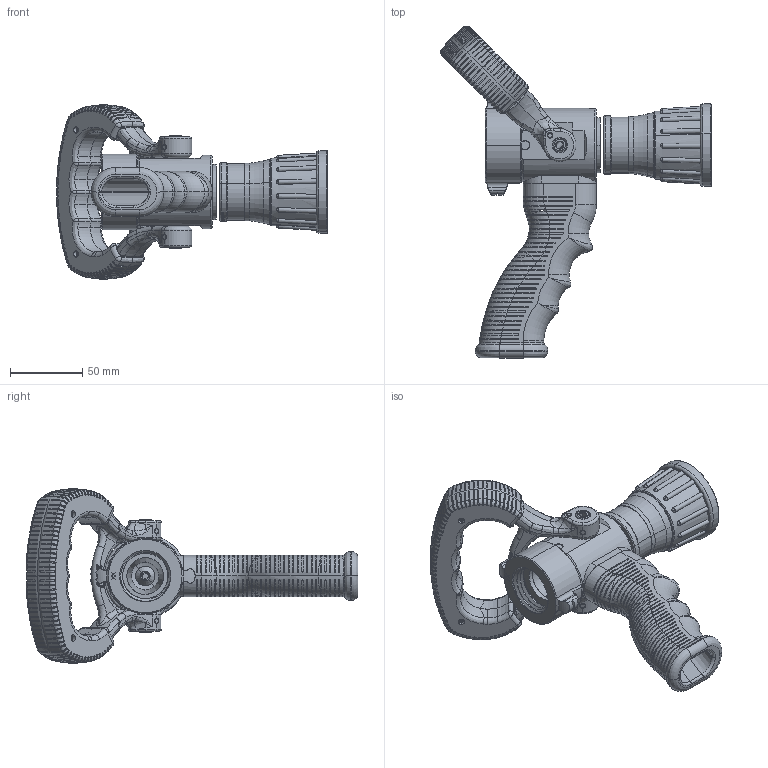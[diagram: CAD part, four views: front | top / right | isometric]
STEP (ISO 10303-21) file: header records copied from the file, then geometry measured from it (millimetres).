
FILE_DESCRIPTION (( 'STEP AP203' ), '1' );
FILE_NAME ('DS1040P.step', '2014-05-13T19:31:17', ( 'user' ), ( '' ), 'SwSTEP 2.0', 'SolidWorks 2012', '' );
FILE_SCHEMA (( 'CONFIG_CONTROL_DESIGN' ));
Length unit declared in the file: inch
Products named in the file (1): DS1040P
Bounding box: 187.06 x 229.24 x 120.41 mm (x, y, z)
Surface area: 99830.9 mm2 (no closed solid volume)
Topology: 0 solids, 33 shells, 2171 faces, 8482 edges, 5885 vertices
Faces by surface type: bspline 674, cylinder 589, plane 577, torus 218, cone 58, sphere 55
Entity records: 134842 total; most frequent: CARTESIAN_POINT 75682, ORIENTED_EDGE 13679, DIRECTION 8975, EDGE_CURVE 8402, VERTEX_POINT 5854, B_SPLINE_CURVE_WITH_KNOTS 4306, AXIS2_PLACEMENT_3D 3458, EDGE_LOOP 2221
